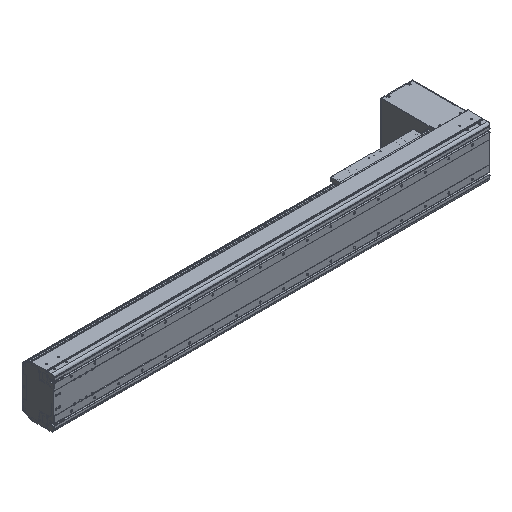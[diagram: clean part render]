
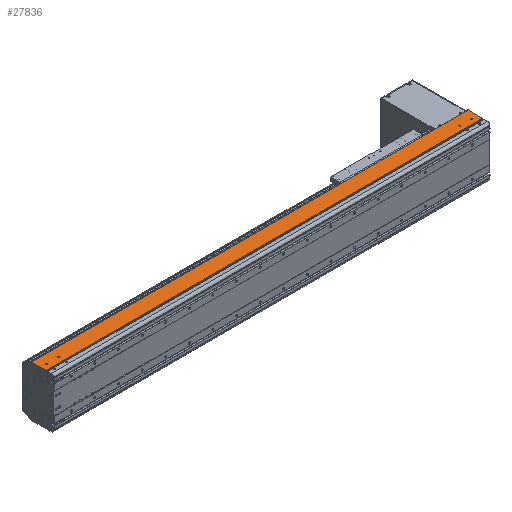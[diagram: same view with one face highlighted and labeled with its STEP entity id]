
A CAD part, isometric view. The second image highlights one B-rep face of the part: STEP entity #27836.
In plain terms, the highlighted planar face has unit normal (0, 0, 1).
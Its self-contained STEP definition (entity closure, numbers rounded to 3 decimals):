
#4993=DIRECTION('',(-1.,0.,0.));
#4994=VECTOR('',#4993,1848.5);
#4995=CARTESIAN_POINT('',(0.,93.5,107.));
#4996=LINE('',#4995,#4994);
#5032=CARTESIAN_POINT('',(0.,93.992,106.974));
#5033=CARTESIAN_POINT('',(0.,93.939,106.974));
#5034=CARTESIAN_POINT('',(0.,93.857,107.018));
#5035=CARTESIAN_POINT('',(0.,93.779,106.99));
#5036=CARTESIAN_POINT('',(0.,93.747,106.99));
#5038=CARTESIAN_POINT('',(0.,93.747,106.99));
#5039=CARTESIAN_POINT('',(0.,93.707,106.99));
#5040=CARTESIAN_POINT('',(0.,93.626,107.005));
#5041=CARTESIAN_POINT('',(0.,93.543,107.));
#5042=CARTESIAN_POINT('',(0.,93.5,107.));
#5044=CARTESIAN_POINT('',(-1823.5,54.,107.));
#5045=DIRECTION('',(0.,0.,-1.));
#5046=DIRECTION('',(1.,0.,0.));
#5047=AXIS2_PLACEMENT_3D('',#5044,#5045,#5046);
#5049=CARTESIAN_POINT('',(-1823.5,54.,107.));
#5050=DIRECTION('',(0.,0.,-1.));
#5051=DIRECTION('',(-1.,0.,0.));
#5052=AXIS2_PLACEMENT_3D('',#5049,#5050,#5051);
#5054=CARTESIAN_POINT('',(-1773.5,54.,107.));
#5055=DIRECTION('',(0.,0.,-1.));
#5056=DIRECTION('',(1.,0.,0.));
#5057=AXIS2_PLACEMENT_3D('',#5054,#5055,#5056);
#5059=CARTESIAN_POINT('',(-1773.5,54.,107.));
#5060=DIRECTION('',(0.,0.,-1.));
#5061=DIRECTION('',(-1.,0.,0.));
#5062=AXIS2_PLACEMENT_3D('',#5059,#5060,#5061);
#5064=CARTESIAN_POINT('',(-23.5,54.,107.));
#5065=DIRECTION('',(0.,0.,-1.));
#5066=DIRECTION('',(1.,0.,0.));
#5067=AXIS2_PLACEMENT_3D('',#5064,#5065,#5066);
#5069=CARTESIAN_POINT('',(-23.5,54.,107.));
#5070=DIRECTION('',(0.,0.,-1.));
#5071=DIRECTION('',(-1.,0.,0.));
#5072=AXIS2_PLACEMENT_3D('',#5069,#5070,#5071);
#5074=CARTESIAN_POINT('',(-73.5,54.,107.));
#5075=DIRECTION('',(0.,0.,-1.));
#5076=DIRECTION('',(1.,0.,0.));
#5077=AXIS2_PLACEMENT_3D('',#5074,#5075,#5076);
#5079=CARTESIAN_POINT('',(-73.5,54.,107.));
#5080=DIRECTION('',(0.,0.,-1.));
#5081=DIRECTION('',(-1.,0.,0.));
#5082=AXIS2_PLACEMENT_3D('',#5079,#5080,#5081);
#5084=DIRECTION('',(0.,-1.,0.));
#5085=VECTOR('',#5084,2.55);
#5086=CARTESIAN_POINT('',(-1846.5,34.65,107.));
#5087=LINE('',#5086,#5085);
#5088=DIRECTION('',(0.,-1.,0.));
#5089=VECTOR('',#5088,58.85);
#5090=CARTESIAN_POINT('',(-1848.5,93.5,107.));
#5091=LINE('',#5090,#5089);
#5092=DIRECTION('',(0.,1.,0.));
#5093=VECTOR('',#5092,58.35);
#5094=CARTESIAN_POINT('',(1.5,35.65,107.));
#5095=LINE('',#5094,#5093);
#5096=DIRECTION('',(0.,1.,0.));
#5097=VECTOR('',#5096,3.55);
#5098=CARTESIAN_POINT('',(0.,32.1,107.));
#5099=LINE('',#5098,#5097);
#5100=DIRECTION('',(1.,0.,0.));
#5101=VECTOR('',#5100,1846.5);
#5102=CARTESIAN_POINT('',(-1846.5,32.1,107.));
#5103=LINE('',#5102,#5101);
#5212=DIRECTION('',(1.,0.,0.));
#5213=VECTOR('',#5212,2.);
#5214=CARTESIAN_POINT('',(-1848.5,34.65,107.));
#5215=LINE('',#5214,#5213);
#5240=DIRECTION('',(-1.,-0.006,-0.017));
#5241=VECTOR('',#5240,1.5);
#5242=CARTESIAN_POINT('',(1.5,94.,107.));
#5243=LINE('',#5242,#5241);
#8879=DIRECTION('',(1.,0.,0.));
#8880=VECTOR('',#8879,1.5);
#8881=CARTESIAN_POINT('',(0.,35.65,107.));
#8882=LINE('',#8881,#8880);
#16518=CARTESIAN_POINT('',(1.5,94.,107.));
#16519=VERTEX_POINT('',#16518);
#16520=CARTESIAN_POINT('',(1.5,35.65,107.));
#16521=VERTEX_POINT('',#16520);
#16590=CARTESIAN_POINT('',(-1848.5,34.65,107.));
#16591=VERTEX_POINT('',#16590);
#16592=CARTESIAN_POINT('',(-1848.5,93.5,107.));
#16593=VERTEX_POINT('',#16592);
#16818=CARTESIAN_POINT('',(-1846.5,32.1,107.));
#16819=VERTEX_POINT('',#16818);
#16869=CARTESIAN_POINT('',(0.,32.1,107.));
#16871=VERTEX_POINT('',#16869);
#17392=CARTESIAN_POINT('',(-1821.,54.,107.));
#17393=CARTESIAN_POINT('',(-1826.,54.,107.));
#17394=VERTEX_POINT('',#17392);
#17395=VERTEX_POINT('',#17393);
#17396=CARTESIAN_POINT('',(-1771.,54.,107.));
#17397=CARTESIAN_POINT('',(-1776.,54.,107.));
#17398=VERTEX_POINT('',#17396);
#17399=VERTEX_POINT('',#17397);
#17400=CARTESIAN_POINT('',(-21.,54.,107.));
#17401=CARTESIAN_POINT('',(-26.,54.,107.));
#17402=VERTEX_POINT('',#17400);
#17403=VERTEX_POINT('',#17401);
#17404=CARTESIAN_POINT('',(-71.,54.,107.));
#17405=CARTESIAN_POINT('',(-76.,54.,107.));
#17406=VERTEX_POINT('',#17404);
#17407=VERTEX_POINT('',#17405);
#19502=CARTESIAN_POINT('',(0.,35.65,107.));
#19503=VERTEX_POINT('',#19502);
#19644=CARTESIAN_POINT('',(0.,93.975,106.923));
#19645=VERTEX_POINT('',#19644);
#19646=VERTEX_POINT('',#5036);
#19647=VERTEX_POINT('',#5042);
#20105=CARTESIAN_POINT('',(-1846.5,34.65,107.));
#20106=VERTEX_POINT('',#20105);
#27790=CARTESIAN_POINT('',(-923.25,62.8,107.));
#27791=DIRECTION('',(0.,0.,1.));
#27792=DIRECTION('',(0.,-1.,0.));
#27793=AXIS2_PLACEMENT_3D('',#27790,#27791,#27792);
#27794=PLANE('',#27793);
#27795=ORIENTED_EDGE('',*,*,#23288,.F.);
#27797=ORIENTED_EDGE('',*,*,#27796,.F.);
#27798=ORIENTED_EDGE('',*,*,#26863,.F.);
#27799=ORIENTED_EDGE('',*,*,#27768,.F.);
#27800=ORIENTED_EDGE('',*,*,#27785,.F.);
#27801=ORIENTED_EDGE('',*,*,#27783,.F.);
#27803=ORIENTED_EDGE('',*,*,#27802,.F.);
#27804=ORIENTED_EDGE('',*,*,#21819,.F.);
#27806=ORIENTED_EDGE('',*,*,#27805,.F.);
#27807=ORIENTED_EDGE('',*,*,#24046,.F.);
#27809=ORIENTED_EDGE('',*,*,#27808,.F.);
#27810=EDGE_LOOP('',(#27795,#27797,#27798,#27799,#27800,#27801,#27803,#27804,
#27806,#27807,#27809));
#27811=FACE_OUTER_BOUND('',#27810,.F.);
#27813=ORIENTED_EDGE('',*,*,#27812,.F.);
#27815=ORIENTED_EDGE('',*,*,#27814,.F.);
#27816=EDGE_LOOP('',(#27813,#27815));
#27817=FACE_BOUND('',#27816,.F.);
#27819=ORIENTED_EDGE('',*,*,#27818,.F.);
#27821=ORIENTED_EDGE('',*,*,#27820,.F.);
#27822=EDGE_LOOP('',(#27819,#27821));
#27823=FACE_BOUND('',#27822,.F.);
#27825=ORIENTED_EDGE('',*,*,#27824,.F.);
#27827=ORIENTED_EDGE('',*,*,#27826,.F.);
#27828=EDGE_LOOP('',(#27825,#27827));
#27829=FACE_BOUND('',#27828,.F.);
#27831=ORIENTED_EDGE('',*,*,#27830,.F.);
#27833=ORIENTED_EDGE('',*,*,#27832,.F.);
#27834=EDGE_LOOP('',(#27831,#27833));
#27835=FACE_BOUND('',#27834,.F.);
#27836=ADVANCED_FACE('',(#27811,#27817,#27823,#27829,#27835),#27794,.T.);
#5037=B_SPLINE_CURVE_WITH_KNOTS('',3,(#5032,#5033,#5034,#5035,#5036),
.UNSPECIFIED.,.F.,.F.,(4,1,4),(0.,0.5,1.),.UNSPECIFIED.);
#5043=B_SPLINE_CURVE_WITH_KNOTS('',3,(#5038,#5039,#5040,#5041,#5042),
.UNSPECIFIED.,.F.,.F.,(4,1,4),(0.,0.5,1.),.UNSPECIFIED.);
#5048=CIRCLE('',#5047,2.5);
#5053=CIRCLE('',#5052,2.5);
#5058=CIRCLE('',#5057,2.5);
#5063=CIRCLE('',#5062,2.5);
#5068=CIRCLE('',#5067,2.5);
#5073=CIRCLE('',#5072,2.5);
#5078=CIRCLE('',#5077,2.5);
#5083=CIRCLE('',#5082,2.5);
#21819=EDGE_CURVE('',#16521,#16519,#5095,.T.);
#23288=EDGE_CURVE('',#20106,#16819,#5087,.T.);
#24046=EDGE_CURVE('',#16871,#19503,#5099,.T.);
#26863=EDGE_CURVE('',#16593,#16591,#5091,.T.);
#27768=EDGE_CURVE('',#19647,#16593,#4996,.T.);
#27783=EDGE_CURVE('',#19645,#19646,#5037,.T.);
#27785=EDGE_CURVE('',#19646,#19647,#5043,.T.);
#27796=EDGE_CURVE('',#16591,#20106,#5215,.T.);
#27802=EDGE_CURVE('',#16519,#19645,#5243,.T.);
#27805=EDGE_CURVE('',#19503,#16521,#8882,.T.);
#27808=EDGE_CURVE('',#16819,#16871,#5103,.T.);
#27812=EDGE_CURVE('',#17398,#17399,#5058,.T.);
#27814=EDGE_CURVE('',#17399,#17398,#5063,.T.);
#27818=EDGE_CURVE('',#17402,#17403,#5068,.T.);
#27820=EDGE_CURVE('',#17403,#17402,#5073,.T.);
#27824=EDGE_CURVE('',#17406,#17407,#5078,.T.);
#27826=EDGE_CURVE('',#17407,#17406,#5083,.T.);
#27830=EDGE_CURVE('',#17394,#17395,#5048,.T.);
#27832=EDGE_CURVE('',#17395,#17394,#5053,.T.);
